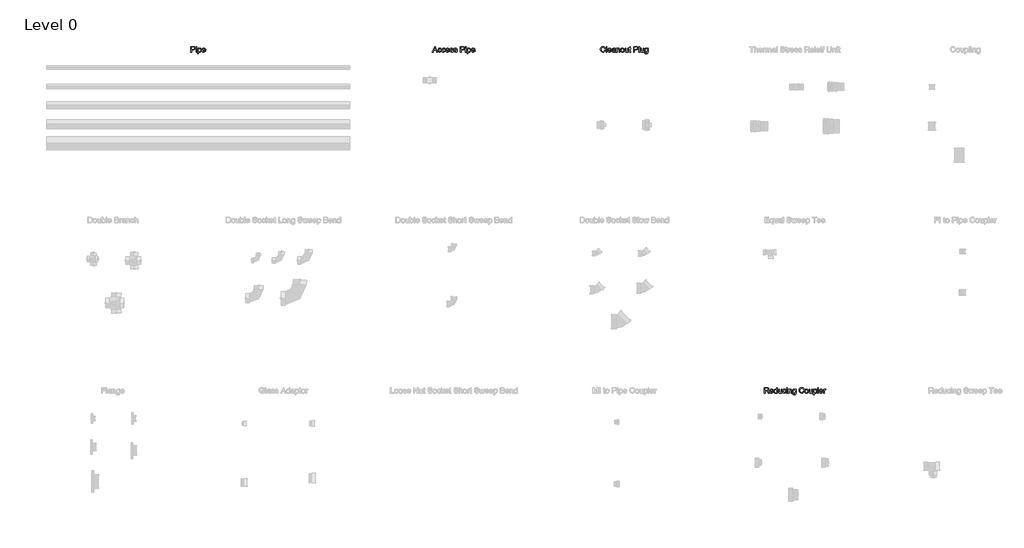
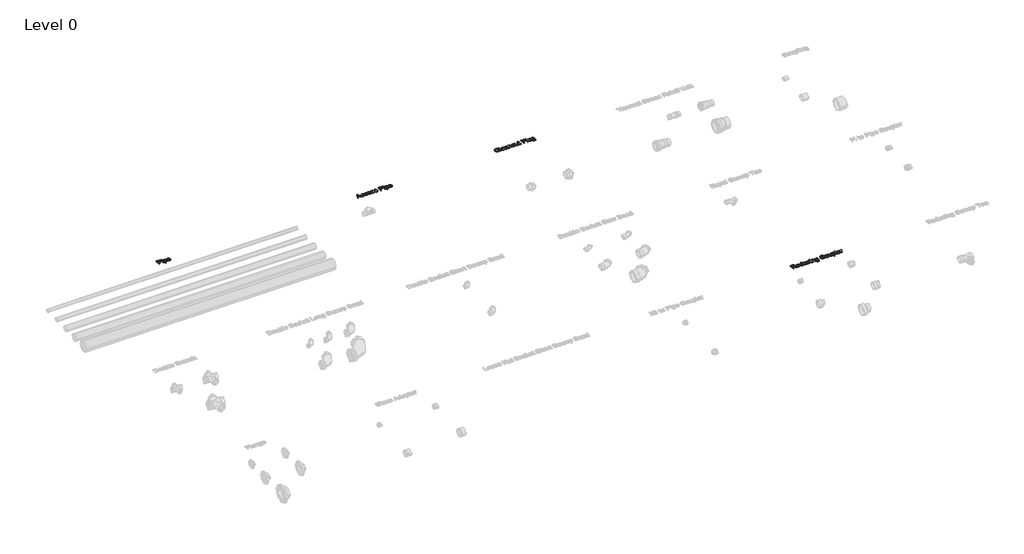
# One storey, part 8 of 10: 4 proxies.
"""IFC4 building model written with IfcOpenShell, lengths in millimetres."""

from ifc_helpers import new_model, si_unit, origin, origin_with_axes, place, context, project, spatial, polyline, outline, extrude, element, save

model = new_model("IFC4")

# Units and contexts
model_context = context("Model", 3, world=origin())
ifc_project = project(units=[si_unit("LENGTHUNIT", "METRE", prefix="MILLI")], contexts=[model_context])

# Site, building, storey
site = spatial("IfcSite", under=ifc_project)
building = spatial("IfcBuilding", under=site)
storey = spatial("IfcBuildingStorey", under=building, Name="Level 0", Elevation=0.0)

# Proxies
placement = place(None, origin())
element("IfcBuildingElementProxy", 1, Name="75mm Arial", ObjectType="75mm Arial", at=placement, inside=storey, context=model_context, shape_type="SweptSolid", body=[
    extrude(outline(polyline([(-6004.5232569, 5606.6243175), (-6004.5232569, 5680.4704713), (-5977.1554685, 5680.4704713), (-5966.1218146, 5679.7673463), (-5957.1524637, 5676.3148223), (-5951.3381608, 5669.1753992), (-5949.1386416, 5659.1062886), (-5950.6237678, 5650.4028631), (-5955.0791464, 5643.1507598), (-5963.4107269, 5638.255928), (-5976.5244589, 5636.6243175), (-5995.2924877, 5636.6243175), (-5995.2924877, 5606.6243175), (-6004.5232569, 5606.6243175)]), holes=[polyline([(-5995.2924877, 5645.8550867), (-5975.9835935, 5645.8550867), (-5962.3898435, 5649.2445098), (-5958.3694108, 5658.7817694), (-5960.7402041, 5666.4260002), (-5966.9691704, 5670.6086925), (-5976.1999396, 5671.2397021), (-5995.2924877, 5671.2397021), (-5995.2924877, 5645.8550867)])]), origin_with_axes(), (0.0, 0.0, 1.0), 10.0),
    extrude(outline(polyline([(-5937.60018, 5606.6243175), (-5937.60018, 5660.8550867), (-5928.3694108, 5660.8550867), (-5928.3694108, 5606.6243175), (-5937.60018, 5606.6243175)])), origin_with_axes(), (0.0, 0.0, 1.0), 10.0),
    extrude(outline(polyline([(-5937.60018, 5671.2397021), (-5937.60018, 5680.4704713), (-5928.3694108, 5680.4704713), (-5928.3694108, 5671.2397021), (-5937.60018, 5671.2397021)])), origin_with_axes(), (0.0, 0.0, 1.0), 10.0),
    extrude(outline(polyline([(-5914.5232569, 5585.8550867), (-5914.5232569, 5660.8550867), (-5905.2924877, 5660.8550867), (-5905.2924877, 5651.8046059), (-5898.9102762, 5659.4578511), (-5890.2924877, 5662.0089328), (-5878.5917666, 5658.4392213), (-5870.9475358, 5648.3791252), (-5868.3694108, 5634.1543655), (-5871.2810694, 5619.1994377), (-5879.7365983, 5609.0131396), (-5891.4102762, 5605.4704713), (-5899.4421271, 5607.8412646), (-5905.2924877, 5613.8358559), (-5905.2924877, 5585.8550867), (-5914.5232569, 5585.8550867)]), holes=[polyline([(-5905.2924877, 5633.3070098), (-5901.2990983, 5619.2445098), (-5891.6085935, 5614.7012405), (-5881.7197714, 5619.4067694), (-5877.60018, 5633.9921059), (-5881.6206127, 5648.0906636), (-5891.2299877, 5652.7781636), (-5901.0286656, 5647.7931877), (-5905.2924877, 5633.3070098)])]), origin_with_axes(), (0.0, 0.0, 1.0), 10.0),
    extrude(outline(polyline([(-5820.0160454, 5622.7781636), (-5810.9655646, 5621.6243175), (-5819.4301079, 5609.7072502), (-5835.1963339, 5605.4704713), (-5846.0271632, 5607.2981456), (-5854.3609973, 5612.7811684), (-5859.6749997, 5621.5634701), (-5861.4463339, 5633.2889809), (-5859.6569709, 5645.4088728), (-5854.2888819, 5654.4728752), (-5846.0677281, 5660.1249184), (-5835.7191704, 5662.0089328), (-5825.6928783, 5660.1294256), (-5817.6813098, 5654.490904), (-5812.4281548, 5645.4449304), (-5810.6771031, 5633.3430675), (-5810.7311896, 5630.8550867), (-5852.2155646, 5630.8550867), (-5846.9060694, 5618.865904), (-5835.0160454, 5614.7012405), (-5825.9655646, 5616.6303271), (-5820.0160454, 5622.7781636)]), holes=[polyline([(-5852.2155646, 5640.0858559), (-5819.9078723, 5640.0858559), (-5823.6037858, 5648.4512405), (-5835.7552281, 5652.7781636), (-5847.1224156, 5649.3256396), (-5852.2155646, 5640.0858559)])]), origin_with_axes(), (0.0, 0.0, 1.0), 10.0),
])
element("IfcBuildingElementProxy", 2, Name="75mm Arial", ObjectType="75mm Arial", at=placement, inside=storey, context=model_context, shape_type="SweptSolid", body=[
    extrude(outline(polyline([(-2818.6999396, 5606.6243175), (-2789.2227762, 5680.4704713), (-2781.3621992, 5680.4704713), (-2751.8850358, 5606.6243175), (-2761.6386416, 5606.6243175), (-2770.0941704, 5629.7012405), (-2800.5088339, 5629.7012405), (-2808.9463339, 5606.6243175), (-2818.6999396, 5606.6243175)]), holes=[polyline([(-2797.1194108, 5638.9320098), (-2773.4655646, 5638.9320098), (-2780.1182089, 5657.0870578), (-2785.2924877, 5671.2397021), (-2789.8898435, 5658.6735963), (-2797.1194108, 5638.9320098)])]), origin_with_axes(), (0.0, 0.0, 1.0), 10.0),
    extrude(outline(polyline([(-2708.5617185, 5626.2397021), (-2699.3309492, 5625.0858559), (-2706.740805, 5610.6717934), (-2721.3802281, 5605.4704713), (-2731.1991884, 5607.284624), (-2738.8772233, 5612.7270819), (-2743.8329024, 5621.5589629), (-2745.4847954, 5633.5413848), (-2742.663281, 5648.8749184), (-2734.0635214, 5658.7276828), (-2721.50643, 5662.0089328), (-2707.4709733, 5657.5017213), (-2700.4847954, 5644.7012405), (-2709.7155646, 5643.5473944), (-2713.9974156, 5650.4614569), (-2721.4343146, 5652.7781636), (-2732.1344348, 5648.2168655), (-2736.2540262, 5633.7937886), (-2732.2245791, 5619.2354953), (-2721.6867185, 5614.7012405), (-2712.9878002, 5617.5317694), (-2708.5617185, 5626.2397021)])), origin_with_axes(), (0.0, 0.0, 1.0), 10.0),
    extrude(outline(polyline([(-2656.6386416, 5626.2397021), (-2647.4078723, 5625.0858559), (-2654.8177281, 5610.6717934), (-2669.4571512, 5605.4704713), (-2679.2761115, 5607.284624), (-2686.9541464, 5612.7270819), (-2691.9098254, 5621.5589629), (-2693.5617185, 5633.5413848), (-2690.7402041, 5648.8749184), (-2682.1404444, 5658.7276828), (-2669.5833531, 5662.0089328), (-2655.5478964, 5657.5017213), (-2648.5617185, 5644.7012405), (-2657.7924877, 5643.5473944), (-2662.0743387, 5650.4614569), (-2669.5112377, 5652.7781636), (-2680.2113579, 5648.2168655), (-2684.3309492, 5633.7937886), (-2680.3015021, 5619.2354953), (-2669.7636416, 5614.7012405), (-2661.0647233, 5617.5317694), (-2656.6386416, 5626.2397021)])), origin_with_axes(), (0.0, 0.0, 1.0), 10.0),
    extrude(outline(polyline([(-2601.3621992, 5622.7781636), (-2592.3117185, 5621.6243175), (-2600.7762617, 5609.7072502), (-2616.5424877, 5605.4704713), (-2627.373317, 5607.2981456), (-2635.7071512, 5612.7811684), (-2641.0211536, 5621.5634701), (-2642.7924877, 5633.2889809), (-2641.0031247, 5645.4088728), (-2635.6350358, 5654.4728752), (-2627.4138819, 5660.1249184), (-2617.0653242, 5662.0089328), (-2607.0390322, 5660.1294256), (-2599.0274637, 5654.490904), (-2593.7743086, 5645.4449304), (-2592.0232569, 5633.3430675), (-2592.0773435, 5630.8550867), (-2633.5617185, 5630.8550867), (-2628.2522233, 5618.865904), (-2616.3621992, 5614.7012405), (-2607.3117185, 5616.6303271), (-2601.3621992, 5622.7781636)]), holes=[polyline([(-2633.5617185, 5640.0858559), (-2601.2540262, 5640.0858559), (-2604.9499396, 5648.4512405), (-2617.1013819, 5652.7781636), (-2628.4685694, 5649.3256396), (-2633.5617185, 5640.0858559)])]), origin_with_axes(), (0.0, 0.0, 1.0), 10.0),
    extrude(outline(polyline([(-2586.2540262, 5622.7781636), (-2577.0232569, 5623.9320098), (-2572.7504204, 5617.0810482), (-2562.9607569, 5614.7012405), (-2553.5496992, 5616.8827309), (-2550.4847954, 5622.0029232), (-2553.5677281, 5626.1495578), (-2563.06893, 5628.7817694), (-2576.9691704, 5633.2979953), (-2583.0358771, 5638.5714328), (-2585.10018, 5646.0173463), (-2583.4415262, 5652.8953511), (-2578.9162858, 5658.1507598), (-2573.0478964, 5660.88213), (-2565.1061896, 5662.0089328), (-2553.8742185, 5660.1970338), (-2546.7347954, 5655.2931877), (-2543.5617185, 5647.0089328), (-2552.7924877, 5645.8550867), (-2556.2630406, 5650.9482357), (-2564.3850358, 5652.7781636), (-2573.2191704, 5651.0293655), (-2575.8694108, 5646.9548463), (-2574.7696512, 5644.2685482), (-2571.3261416, 5642.2312886), (-2563.3754204, 5640.2661444), (-2549.8267425, 5635.9211925), (-2543.5346752, 5630.9993175), (-2541.2540262, 5622.9764809), (-2543.9313098, 5614.1423463), (-2551.6566704, 5607.7330915), (-2563.0869589, 5605.4704713), (-2579.1867185, 5609.8334521), (-2586.2540262, 5622.7781636)])), origin_with_axes(), (0.0, 0.0, 1.0), 10.0),
    extrude(outline(polyline([(-2534.3309492, 5622.7781636), (-2525.10018, 5623.9320098), (-2520.8273435, 5617.0810482), (-2511.03768, 5614.7012405), (-2501.6266223, 5616.8827309), (-2498.5617185, 5622.0029232), (-2501.6446512, 5626.1495578), (-2511.1458531, 5628.7817694), (-2525.0460935, 5633.2979953), (-2531.1128002, 5638.5714328), (-2533.1771031, 5646.0173463), (-2531.5184492, 5652.8953511), (-2526.9932089, 5658.1507598), (-2521.1248194, 5660.88213), (-2513.1831127, 5662.0089328), (-2501.9511416, 5660.1970338), (-2494.8117185, 5655.2931877), (-2491.6386416, 5647.0089328), (-2500.8694108, 5645.8550867), (-2504.3399637, 5650.9482357), (-2512.4619589, 5652.7781636), (-2521.2960935, 5651.0293655), (-2523.9463339, 5646.9548463), (-2522.8465742, 5644.2685482), (-2519.4030646, 5642.2312886), (-2511.4523435, 5640.2661444), (-2497.9036656, 5635.9211925), (-2491.6115983, 5630.9993175), (-2489.3309492, 5622.9764809), (-2492.0082329, 5614.1423463), (-2499.7335935, 5607.7330915), (-2511.1638819, 5605.4704713), (-2527.2636416, 5609.8334521), (-2534.3309492, 5622.7781636)])), origin_with_axes(), (0.0, 0.0, 1.0), 10.0),
    extrude(outline(polyline([(-2448.9463339, 5606.6243175), (-2448.9463339, 5680.4704713), (-2421.5785454, 5680.4704713), (-2410.5448916, 5679.7673463), (-2401.5755406, 5676.3148223), (-2395.7612377, 5669.1753992), (-2393.5617185, 5659.1062886), (-2395.0468447, 5650.4028631), (-2399.5022233, 5643.1507598), (-2407.8338038, 5638.255928), (-2420.9475358, 5636.6243175), (-2439.7155646, 5636.6243175), (-2439.7155646, 5606.6243175), (-2448.9463339, 5606.6243175)]), holes=[polyline([(-2439.7155646, 5645.8550867), (-2420.4066704, 5645.8550867), (-2406.8129204, 5649.2445098), (-2402.7924877, 5658.7817694), (-2405.163281, 5666.4260002), (-2411.3922473, 5670.6086925), (-2420.6230166, 5671.2397021), (-2439.7155646, 5671.2397021), (-2439.7155646, 5645.8550867)])]), origin_with_axes(), (0.0, 0.0, 1.0), 10.0),
    extrude(outline(polyline([(-2382.0232569, 5606.6243175), (-2382.0232569, 5660.8550867), (-2372.7924877, 5660.8550867), (-2372.7924877, 5606.6243175), (-2382.0232569, 5606.6243175)])), origin_with_axes(), (0.0, 0.0, 1.0), 10.0),
    extrude(outline(polyline([(-2382.0232569, 5671.2397021), (-2382.0232569, 5680.4704713), (-2372.7924877, 5680.4704713), (-2372.7924877, 5671.2397021), (-2382.0232569, 5671.2397021)])), origin_with_axes(), (0.0, 0.0, 1.0), 10.0),
    extrude(outline(polyline([(-2358.9463339, 5585.8550867), (-2358.9463339, 5660.8550867), (-2349.7155646, 5660.8550867), (-2349.7155646, 5651.8046059), (-2343.3333531, 5659.4578511), (-2334.7155646, 5662.0089328), (-2323.0148435, 5658.4392213), (-2315.3706127, 5648.3791252), (-2312.7924877, 5634.1543655), (-2315.7041464, 5619.1994377), (-2324.1596752, 5609.0131396), (-2335.8333531, 5605.4704713), (-2343.8652041, 5607.8412646), (-2349.7155646, 5613.8358559), (-2349.7155646, 5585.8550867), (-2358.9463339, 5585.8550867)]), holes=[polyline([(-2349.7155646, 5633.3070098), (-2345.7221752, 5619.2445098), (-2336.0316704, 5614.7012405), (-2326.1428483, 5619.4067694), (-2322.0232569, 5633.9921059), (-2326.0436896, 5648.0906636), (-2335.6530646, 5652.7781636), (-2345.4517425, 5647.7931877), (-2349.7155646, 5633.3070098)])]), origin_with_axes(), (0.0, 0.0, 1.0), 10.0),
    extrude(outline(polyline([(-2264.4391223, 5622.7781636), (-2255.3886416, 5621.6243175), (-2263.8531848, 5609.7072502), (-2279.6194108, 5605.4704713), (-2290.4502401, 5607.2981456), (-2298.7840742, 5612.7811684), (-2304.0980767, 5621.5634701), (-2305.8694108, 5633.2889809), (-2304.0800478, 5645.4088728), (-2298.7119589, 5654.4728752), (-2290.490805, 5660.1249184), (-2280.1422473, 5662.0089328), (-2270.1159553, 5660.1294256), (-2262.1043867, 5654.490904), (-2256.8512317, 5645.4449304), (-2255.10018, 5633.3430675), (-2255.1542666, 5630.8550867), (-2296.6386416, 5630.8550867), (-2291.3291464, 5618.865904), (-2279.4391223, 5614.7012405), (-2270.3886416, 5616.6303271), (-2264.4391223, 5622.7781636)]), holes=[polyline([(-2296.6386416, 5640.0858559), (-2264.3309492, 5640.0858559), (-2268.0268627, 5648.4512405), (-2280.178305, 5652.7781636), (-2291.5454925, 5649.3256396), (-2296.6386416, 5640.0858559)])]), origin_with_axes(), (0.0, 0.0, 1.0), 10.0),
])
element("IfcBuildingElementProxy", 3, Name="75mm Arial", ObjectType="75mm Arial", at=placement, inside=storey, context=model_context, shape_type="SweptSolid", body=[
    extrude(outline(polyline([(-546.2540262, 5632.8743175), (-537.0232569, 5630.4945098), (-541.2825718, 5619.7380494), (-547.9667666, 5611.8797261), (-556.7468146, 5607.072785), (-567.2936896, 5605.4704713), (-586.5034252, 5610.3202309), (-597.7714541, 5624.3647021), (-601.6386416, 5644.1062886), (-597.2666464, 5664.1723944), (-584.8357569, 5677.1802069), (-567.0953723, 5681.6243175), (-556.9744288, 5680.186517), (-548.6067906, 5675.8731155), (-542.2538759, 5668.9500386), (-538.1771031, 5659.6832117), (-547.4078723, 5657.4836925), (-554.9799877, 5668.8328511), (-567.4559492, 5672.3935482), (-581.897055, 5668.4452309), (-590.0551079, 5657.8442694), (-592.4078723, 5644.1243175), (-589.6224156, 5628.2228752), (-580.9505406, 5618.0636203), (-568.2131608, 5614.7012405), (-554.0875598, 5619.2805675), (-546.2540262, 5632.8743175)])), origin_with_axes(), (0.0, 0.0, 1.0), 10.0),
    extrude(outline(polyline([(-525.4847954, 5606.6243175), (-525.4847954, 5680.4704713), (-516.2540262, 5680.4704713), (-516.2540262, 5606.6243175), (-525.4847954, 5606.6243175)])), origin_with_axes(), (0.0, 0.0, 1.0), 10.0),
    extrude(outline(polyline([(-464.4391223, 5622.7781636), (-455.3886416, 5621.6243175), (-463.8531848, 5609.7072502), (-479.6194108, 5605.4704713), (-490.4502401, 5607.2981456), (-498.7840742, 5612.7811684), (-504.0980767, 5621.5634701), (-505.8694108, 5633.2889809), (-504.0800478, 5645.4088728), (-498.7119589, 5654.4728752), (-490.490805, 5660.1249184), (-480.1422473, 5662.0089328), (-470.1159553, 5660.1294256), (-462.1043867, 5654.490904), (-456.8512317, 5645.4449304), (-455.10018, 5633.3430675), (-455.1542666, 5630.8550867), (-496.6386416, 5630.8550867), (-491.3291464, 5618.865904), (-479.4391223, 5614.7012405), (-470.3886416, 5616.6303271), (-464.4391223, 5622.7781636)]), holes=[polyline([(-496.6386416, 5640.0858559), (-464.3309492, 5640.0858559), (-468.0268627, 5648.4512405), (-480.178305, 5652.7781636), (-491.5454925, 5649.3256396), (-496.6386416, 5640.0858559)])]), origin_with_axes(), (0.0, 0.0, 1.0), 10.0),
    extrude(outline(polyline([(-411.2540262, 5613.5473944), (-420.2053483, 5607.2913848), (-430.0941704, 5605.4704713), (-443.4986175, 5609.8514809), (-448.1771031, 5621.0473944), (-446.4102762, 5628.3490771), (-441.7678483, 5633.6495578), (-435.3045069, 5636.678404), (-427.3177281, 5638.0666252), (-411.3081127, 5641.2397021), (-411.2540262, 5643.2949905), (-413.7960935, 5650.1098944), (-424.0004204, 5652.7781636), (-433.3393627, 5651.0023223), (-437.7924877, 5644.7012405), (-447.0232569, 5645.8550867), (-443.0298675, 5654.8695098), (-434.9890021, 5660.1519617), (-422.8105166, 5662.0089328), (-411.6236175, 5660.3683078), (-405.3045069, 5656.2487165), (-402.4739781, 5649.9836925), (-402.0232569, 5641.9067694), (-402.0232569, 5630.4223944), (-401.5545069, 5614.3857357), (-399.7155646, 5606.6243175), (-408.9463339, 5606.6243175), (-411.2540262, 5613.5473944)]), holes=[polyline([(-411.2540262, 5632.0089328), (-426.1458531, 5629.178404), (-434.0875598, 5627.6820098), (-437.6843146, 5625.2481155), (-438.9463339, 5621.6964328), (-436.1969348, 5616.7024425), (-428.1290262, 5614.7012405), (-418.7900839, 5616.9097742), (-412.7684492, 5622.2553271), (-411.3081127, 5629.3947502), (-411.2540262, 5632.0089328)])]), origin_with_axes(), (0.0, 0.0, 1.0), 10.0),
    extrude(outline(polyline([(-389.3309492, 5606.6243175), (-389.3309492, 5660.8550867), (-380.10018, 5660.8550867), (-380.10018, 5653.2829713), (-373.0418867, 5659.8274425), (-363.4054685, 5662.0089328), (-354.6885214, 5660.2511203), (-348.7390021, 5655.6357357), (-345.9715742, 5648.8478752), (-345.4847954, 5639.9235963), (-345.4847954, 5606.6243175), (-354.7155646, 5606.6243175), (-354.7155646, 5638.6796059), (-355.7792666, 5646.8466732), (-359.538281, 5651.1645819), (-365.8754204, 5652.7781636), (-375.8904444, 5649.1543655), (-380.10018, 5635.3983559), (-380.10018, 5606.6243175), (-389.3309492, 5606.6243175)])), origin_with_axes(), (0.0, 0.0, 1.0), 10.0),
    extrude(outline(polyline([(-335.10018, 5633.7397021), (-333.1034853, 5646.8151228), (-327.1134012, 5656.0053271), (-319.7125598, 5660.5080314), (-310.8513819, 5662.0089328), (-301.1541163, 5660.1812586), (-293.4084733, 5654.6982357), (-288.3310995, 5645.9925566), (-286.6386416, 5634.4969136), (-289.63143, 5618.0726348), (-298.3483771, 5608.7787646), (-310.8513819, 5605.4704713), (-320.6658351, 5607.2913848), (-328.4024637, 5612.7541252), (-333.4257509, 5621.6423463), (-335.10018, 5633.7397021)]), holes=[polyline([(-325.8694108, 5633.7577309), (-321.5965742, 5619.4518415), (-310.8513819, 5614.7012405), (-300.1422473, 5619.4788848), (-295.8694108, 5634.0461925), (-300.1692906, 5648.0275627), (-310.8513819, 5652.7781636), (-321.5965742, 5648.0455915), (-325.8694108, 5633.7577309)])]), origin_with_axes(), (0.0, 0.0, 1.0), 10.0),
    extrude(outline(polyline([(-241.6386416, 5606.6243175), (-241.6386416, 5615.9452309), (-248.8682089, 5608.0891612), (-258.2972954, 5605.4704713), (-266.9781848, 5607.3094136), (-272.9637617, 5611.9247982), (-275.7131608, 5618.7216732), (-276.2540262, 5627.303404), (-276.2540262, 5660.8550867), (-267.0232569, 5660.8550867), (-267.0232569, 5631.6483559), (-266.4643627, 5622.2372982), (-262.8135214, 5616.7114569), (-255.9355166, 5614.7012405), (-248.2281848, 5616.756529), (-243.1350358, 5622.3544857), (-241.6386416, 5632.6399425), (-241.6386416, 5660.8550867), (-232.4078723, 5660.8550867), (-232.4078723, 5606.6243175), (-241.6386416, 5606.6243175)])), origin_with_axes(), (0.0, 0.0, 1.0), 10.0),
    extrude(outline(polyline([(-200.10018, 5614.3226348), (-198.9463339, 5606.3538848), (-205.8513819, 5605.4704713), (-213.5857569, 5607.0029232), (-217.44393, 5611.0233559), (-218.5617185, 5621.4981155), (-218.5617185, 5651.6243175), (-225.4847954, 5651.6243175), (-225.4847954, 5660.8550867), (-218.5617185, 5660.8550867), (-218.5617185, 5674.0341732), (-209.3309492, 5679.4608559), (-209.3309492, 5660.8550867), (-200.10018, 5660.8550867), (-200.10018, 5651.6243175), (-209.3309492, 5651.6243175), (-209.3309492, 5621.7685482), (-208.8441704, 5617.0089328), (-207.2666464, 5615.3232357), (-204.1206127, 5614.7012405), (-200.10018, 5614.3226348)])), origin_with_axes(), (0.0, 0.0, 1.0), 10.0),
    extrude(outline(polyline([(-160.8694108, 5606.6243175), (-160.8694108, 5680.4704713), (-133.5016223, 5680.4704713), (-122.4679685, 5679.7673463), (-113.4986175, 5676.3148223), (-107.6843146, 5669.1753992), (-105.4847954, 5659.1062886), (-106.9699216, 5650.4028631), (-111.4253002, 5643.1507598), (-119.7568807, 5638.255928), (-132.8706127, 5636.6243175), (-151.6386416, 5636.6243175), (-151.6386416, 5606.6243175), (-160.8694108, 5606.6243175)]), holes=[polyline([(-151.6386416, 5645.8550867), (-132.3297473, 5645.8550867), (-118.7359973, 5649.2445098), (-114.7155646, 5658.7817694), (-117.0863579, 5666.4260002), (-123.3153242, 5670.6086925), (-132.5460935, 5671.2397021), (-151.6386416, 5671.2397021), (-151.6386416, 5645.8550867)])]), origin_with_axes(), (0.0, 0.0, 1.0), 10.0),
    extrude(outline(polyline([(-93.9463339, 5606.6243175), (-93.9463339, 5680.4704713), (-84.7155646, 5680.4704713), (-84.7155646, 5606.6243175), (-93.9463339, 5606.6243175)])), origin_with_axes(), (0.0, 0.0, 1.0), 10.0),
    extrude(outline(polyline([(-36.2540262, 5606.6243175), (-36.2540262, 5615.9452309), (-43.4835935, 5608.0891612), (-52.91268, 5605.4704713), (-61.5935694, 5607.3094136), (-67.5791464, 5611.9247982), (-70.3285454, 5618.7216732), (-70.8694108, 5627.303404), (-70.8694108, 5660.8550867), (-61.6386416, 5660.8550867), (-61.6386416, 5631.6483559), (-61.0797473, 5622.2372982), (-57.428906, 5616.7114569), (-50.5509012, 5614.7012405), (-42.8435694, 5616.756529), (-37.7504204, 5622.3544857), (-36.2540262, 5632.6399425), (-36.2540262, 5660.8550867), (-27.0232569, 5660.8550867), (-27.0232569, 5606.6243175), (-36.2540262, 5606.6243175)])), origin_with_axes(), (0.0, 0.0, 1.0), 10.0),
    extrude(outline(polyline([(-16.6386416, 5602.0089328), (-7.4078723, 5600.8550867), (-4.4150839, 5595.9872982), (4.5452527, 5593.9320098), (13.9923681, 5596.2577309), (18.4995796, 5602.7841732), (19.1305892, 5613.5473944), (12.6311902, 5608.3550867), (4.7075123, 5606.6243175), (-4.8094649, 5608.639041), (-11.9060694, 5614.6832117), (-16.3208831, 5623.5443896), (-17.7924877, 5634.0101348), (-15.1512617, 5648.3160242), (-7.507031, 5658.4392213), (4.2567911, 5662.0089328), (12.4914666, 5659.9897021), (19.1305892, 5653.9320098), (19.1305892, 5660.8550867), (28.3613584, 5660.8550867), (28.3613584, 5614.0341732), (25.83732, 5596.1044857), (17.8415267, 5587.7661444), (4.3649642, 5584.7012405), (-10.9865983, 5589.0191492), (-15.3247894, 5594.4255494), (-16.6386416, 5602.0089328)]), holes=[polyline([(-8.5617185, 5634.6411444), (-4.6224156, 5620.3532838), (5.2664065, 5615.8550867), (15.1371998, 5620.3262405), (19.1305892, 5634.3707117), (15.0200123, 5648.1357357), (5.1221758, 5652.7781636), (-4.5683291, 5648.2078511), (-8.5617185, 5634.6411444)])]), origin_with_axes(), (0.0, 0.0, 1.0), 10.0),
])
element("IfcBuildingElementProxy", 4, Name="75mm Arial", ObjectType="75mm Arial", at=placement, inside=storey, context=model_context, shape_type="SweptSolid", body=[
    extrude(outline(polyline([(1563.5536661, 1106.6243175), (1563.5536661, 1180.4704713), (1595.3745796, 1180.4704713), (1610.149219, 1178.4782838), (1618.2261421, 1171.429005), (1621.2459738, 1160.2601348), (1616.242969, 1146.9548463), (1600.7832334, 1140.0858559), (1606.0296277, 1136.1375386), (1613.5115988, 1126.6363367), (1625.8253008, 1106.6243175), (1615.0981373, 1106.6243175), (1605.4887623, 1121.9308078), (1598.5476565, 1132.0630194), (1593.6708536, 1136.849678), (1589.2808296, 1138.6074905), (1583.9262623, 1138.9320098), (1572.7844354, 1138.9320098), (1572.7844354, 1106.6243175), (1563.5536661, 1106.6243175)]), holes=[polyline([(1572.7844354, 1148.162779), (1593.4454931, 1148.162779), (1603.9833536, 1149.4698703), (1609.9689306, 1153.6525627), (1612.0152046, 1159.9175867), (1608.1119594, 1168.0485963), (1595.7712142, 1171.2397021), (1572.7844354, 1171.2397021), (1572.7844354, 1148.162779)])]), origin_with_axes(), (0.0, 0.0, 1.0), 10.0),
    extrude(outline(polyline([(1674.2147238, 1122.7781636), (1683.2652046, 1121.6243175), (1674.8006613, 1109.7072502), (1659.0344354, 1105.4704713), (1648.203606, 1107.2981456), (1639.8697719, 1112.7811684), (1634.5557695, 1121.5634701), (1632.7844354, 1133.2889809), (1634.5737983, 1145.4088728), (1639.9418873, 1154.4728752), (1648.1630411, 1160.1249184), (1658.5115988, 1162.0089328), (1668.5378909, 1160.1294256), (1676.5494594, 1154.490904), (1681.8026145, 1145.4449304), (1683.5536661, 1133.3430675), (1683.4995796, 1130.8550867), (1642.0152046, 1130.8550867), (1647.3246998, 1118.865904), (1659.2147238, 1114.7012405), (1668.2652046, 1116.6303271), (1674.2147238, 1122.7781636)]), holes=[polyline([(1642.0152046, 1140.0858559), (1674.3228969, 1140.0858559), (1670.6269834, 1148.4512405), (1658.4755411, 1152.7781636), (1647.1083536, 1149.3256396), (1642.0152046, 1140.0858559)])]), origin_with_axes(), (0.0, 0.0, 1.0), 10.0),
    extrude(outline(polyline([(1726.2459738, 1106.6243175), (1726.2459738, 1115.3322502), (1720.1387022, 1107.935916), (1711.696695, 1105.4704713), (1700.2664065, 1109.0401828), (1692.1894834, 1119.0011203), (1689.3228969, 1133.6856155), (1691.9641229, 1148.3791252), (1699.8787863, 1158.4933078), (1711.6606373, 1162.0089328), (1720.1702527, 1159.4939088), (1726.2459738, 1152.9584521), (1726.2459738, 1180.4704713), (1735.4767431, 1180.4704713), (1735.4767431, 1106.6243175), (1726.2459738, 1106.6243175)]), holes=[polyline([(1698.5536661, 1133.7216732), (1702.7183296, 1119.4338127), (1712.5440508, 1114.7012405), (1722.2525844, 1119.2174665), (1726.2459738, 1133.0185482), (1722.180469, 1148.0005194), (1712.165445, 1152.7781636), (1702.4478969, 1148.1898223), (1698.5536661, 1133.7216732)])]), origin_with_axes(), (0.0, 0.0, 1.0), 10.0),
    extrude(outline(polyline([(1783.9382815, 1106.6243175), (1783.9382815, 1115.9452309), (1776.7087142, 1108.0891612), (1767.2796277, 1105.4704713), (1758.5987383, 1107.3094136), (1752.6131613, 1111.9247982), (1749.8637623, 1118.7216732), (1749.3228969, 1127.303404), (1749.3228969, 1160.8550867), (1758.5536661, 1160.8550867), (1758.5536661, 1131.6483559), (1759.1125604, 1122.2372982), (1762.7634017, 1116.7114569), (1769.6414065, 1114.7012405), (1777.3487383, 1116.756529), (1782.4418873, 1122.3544857), (1783.9382815, 1132.6399425), (1783.9382815, 1160.8550867), (1793.1690508, 1160.8550867), (1793.1690508, 1106.6243175), (1783.9382815, 1106.6243175)])), origin_with_axes(), (0.0, 0.0, 1.0), 10.0),
    extrude(outline(polyline([(1840.4767431, 1126.2397021), (1849.7075123, 1125.0858559), (1842.2976565, 1110.6717934), (1827.6582334, 1105.4704713), (1817.8392731, 1107.284624), (1810.1612383, 1112.7270819), (1805.2055592, 1121.5589629), (1803.5536661, 1133.5413848), (1806.3751806, 1148.8749184), (1814.9749402, 1158.7276828), (1827.5320315, 1162.0089328), (1841.5674883, 1157.5017213), (1848.5536661, 1144.7012405), (1839.3228969, 1143.5473944), (1835.0410459, 1150.4614569), (1827.6041469, 1152.7781636), (1816.9040267, 1148.2168655), (1812.7844354, 1133.7937886), (1816.8138825, 1119.2354953), (1827.3517431, 1114.7012405), (1836.0506613, 1117.5317694), (1840.4767431, 1126.2397021)])), origin_with_axes(), (0.0, 0.0, 1.0), 10.0),
    extrude(outline(polyline([(1857.7844354, 1106.6243175), (1857.7844354, 1160.8550867), (1867.0152046, 1160.8550867), (1867.0152046, 1106.6243175), (1857.7844354, 1106.6243175)])), origin_with_axes(), (0.0, 0.0, 1.0), 10.0),
    extrude(outline(polyline([(1857.7844354, 1171.2397021), (1857.7844354, 1180.4704713), (1867.0152046, 1180.4704713), (1867.0152046, 1171.2397021), (1857.7844354, 1171.2397021)])), origin_with_axes(), (0.0, 0.0, 1.0), 10.0),
    extrude(outline(polyline([(1880.8613584, 1106.6243175), (1880.8613584, 1160.8550867), (1890.0921277, 1160.8550867), (1890.0921277, 1153.2829713), (1897.1504209, 1159.8274425), (1906.7868392, 1162.0089328), (1915.5037863, 1160.2511203), (1921.4533056, 1155.6357357), (1924.2207334, 1148.8478752), (1924.7075123, 1139.9235963), (1924.7075123, 1106.6243175), (1915.4767431, 1106.6243175), (1915.4767431, 1138.6796059), (1914.4130411, 1146.8466732), (1910.6540267, 1151.1645819), (1904.3168873, 1152.7781636), (1894.3018633, 1149.1543655), (1890.0921277, 1135.3983559), (1890.0921277, 1106.6243175), (1880.8613584, 1106.6243175)])), origin_with_axes(), (0.0, 0.0, 1.0), 10.0),
    extrude(outline(polyline([(1935.0921277, 1102.0089328), (1944.3228969, 1100.8550867), (1947.3156854, 1095.9872982), (1956.2760219, 1093.9320098), (1965.7231373, 1096.2577309), (1970.2303488, 1102.7841732), (1970.8613584, 1113.5473944), (1964.3619594, 1108.3550867), (1956.4382815, 1106.6243175), (1946.9213044, 1108.639041), (1939.8246998, 1114.6832117), (1935.4098861, 1123.5443896), (1933.9382815, 1134.0101348), (1936.5795075, 1148.3160242), (1944.2237383, 1158.4392213), (1955.9875604, 1162.0089328), (1964.2222358, 1159.9897021), (1970.8613584, 1153.9320098), (1970.8613584, 1160.8550867), (1980.0921277, 1160.8550867), (1980.0921277, 1114.0341732), (1977.5680892, 1096.1044857), (1969.5722959, 1087.7661444), (1956.0957334, 1084.7012405), (1940.7441709, 1089.0191492), (1936.4059798, 1094.4255494), (1935.0921277, 1102.0089328)]), holes=[polyline([(1943.1690508, 1134.6411444), (1947.1083536, 1120.3532838), (1956.9971758, 1115.8550867), (1966.867969, 1120.3262405), (1970.8613584, 1134.3707117), (1966.7507815, 1148.1357357), (1956.852945, 1152.7781636), (1947.1624402, 1148.2078511), (1943.1690508, 1134.6411444)])]), origin_with_axes(), (0.0, 0.0, 1.0), 10.0),
    extrude(outline(polyline([(2075.8613584, 1132.8743175), (2085.0921277, 1130.4945098), (2080.8328128, 1119.7380494), (2074.1486181, 1111.8797261), (2065.36857, 1107.072785), (2054.821695, 1105.4704713), (2035.6119594, 1110.3202309), (2024.3439306, 1124.3647021), (2020.4767431, 1144.1062886), (2024.8487383, 1164.1723944), (2037.2796277, 1177.1802069), (2055.0200123, 1181.6243175), (2065.1409558, 1180.186517), (2073.508594, 1175.8731155), (2079.8615087, 1168.9500386), (2083.9382815, 1159.6832117), (2074.7075123, 1157.4836925), (2067.1353969, 1168.8328511), (2054.6594354, 1172.3935482), (2040.2183296, 1168.4452309), (2032.0602767, 1157.8442694), (2029.7075123, 1144.1243175), (2032.492969, 1128.2228752), (2041.164844, 1118.0636203), (2053.9022238, 1114.7012405), (2068.0278248, 1119.2805675), (2075.8613584, 1132.8743175)])), origin_with_axes(), (0.0, 0.0, 1.0), 10.0),
    extrude(outline(polyline([(2094.3228969, 1133.7397021), (2096.3195916, 1146.8151228), (2102.3096758, 1156.0053271), (2109.7105171, 1160.5080314), (2118.571695, 1162.0089328), (2128.2689606, 1160.1812586), (2136.0146036, 1154.6982357), (2141.0919774, 1145.9925566), (2142.7844354, 1134.4969136), (2139.7916469, 1118.0726348), (2131.0746998, 1108.7787646), (2118.571695, 1105.4704713), (2108.7572419, 1107.2913848), (2101.0206133, 1112.7541252), (2095.997326, 1121.6423463), (2094.3228969, 1133.7397021)]), holes=[polyline([(2103.5536661, 1133.7577309), (2107.8265027, 1119.4518415), (2118.571695, 1114.7012405), (2129.2808296, 1119.4788848), (2133.5536661, 1134.0461925), (2129.2537863, 1148.0275627), (2118.571695, 1152.7781636), (2107.8265027, 1148.0455915), (2103.5536661, 1133.7577309)])]), origin_with_axes(), (0.0, 0.0, 1.0), 10.0),
    extrude(outline(polyline([(2187.7844354, 1106.6243175), (2187.7844354, 1115.9452309), (2180.5548681, 1108.0891612), (2171.1257815, 1105.4704713), (2162.4448921, 1107.3094136), (2156.4593152, 1111.9247982), (2153.7099161, 1118.7216732), (2153.1690508, 1127.303404), (2153.1690508, 1160.8550867), (2162.39982, 1160.8550867), (2162.39982, 1131.6483559), (2162.9587142, 1122.2372982), (2166.6095556, 1116.7114569), (2173.4875604, 1114.7012405), (2181.1948921, 1116.756529), (2186.2880411, 1122.3544857), (2187.7844354, 1132.6399425), (2187.7844354, 1160.8550867), (2197.0152046, 1160.8550867), (2197.0152046, 1106.6243175), (2187.7844354, 1106.6243175)])), origin_with_axes(), (0.0, 0.0, 1.0), 10.0),
    extrude(outline(polyline([(2209.7075123, 1085.8550867), (2209.7075123, 1160.8550867), (2218.9382815, 1160.8550867), (2218.9382815, 1151.8046059), (2225.3204931, 1159.4578511), (2233.9382815, 1162.0089328), (2245.6390027, 1158.4392213), (2253.2832334, 1148.3791252), (2255.8613584, 1134.1543655), (2252.9496998, 1119.1994377), (2244.4941709, 1109.0131396), (2232.8204931, 1105.4704713), (2224.7886421, 1107.8412646), (2218.9382815, 1113.8358559), (2218.9382815, 1085.8550867), (2209.7075123, 1085.8550867)]), holes=[polyline([(2218.9382815, 1133.3070098), (2222.9316709, 1119.2445098), (2232.6221758, 1114.7012405), (2242.5109979, 1119.4067694), (2246.6305892, 1133.9921059), (2242.6101565, 1148.0906636), (2233.0007815, 1152.7781636), (2223.2021036, 1147.7931877), (2218.9382815, 1133.3070098)])]), origin_with_axes(), (0.0, 0.0, 1.0), 10.0),
    extrude(outline(polyline([(2266.2459738, 1106.6243175), (2266.2459738, 1180.4704713), (2275.4767431, 1180.4704713), (2275.4767431, 1106.6243175), (2266.2459738, 1106.6243175)])), origin_with_axes(), (0.0, 0.0, 1.0), 10.0),
    extrude(outline(polyline([(2327.2916469, 1122.7781636), (2336.3421277, 1121.6243175), (2327.8775844, 1109.7072502), (2312.1113584, 1105.4704713), (2301.2805291, 1107.2981456), (2292.946695, 1112.7811684), (2287.6326926, 1121.5634701), (2285.8613584, 1133.2889809), (2287.6507214, 1145.4088728), (2293.0188104, 1154.4728752), (2301.2399642, 1160.1249184), (2311.5885219, 1162.0089328), (2321.614814, 1160.1294256), (2329.6263825, 1154.490904), (2334.8795375, 1145.4449304), (2336.6305892, 1133.3430675), (2336.5765027, 1130.8550867), (2295.0921277, 1130.8550867), (2300.4016229, 1118.865904), (2312.2916469, 1114.7012405), (2321.3421277, 1116.6303271), (2327.2916469, 1122.7781636)]), holes=[polyline([(2295.0921277, 1140.0858559), (2327.39982, 1140.0858559), (2323.7039065, 1148.4512405), (2311.5524642, 1152.7781636), (2300.1852767, 1149.3256396), (2295.0921277, 1140.0858559)])]), origin_with_axes(), (0.0, 0.0, 1.0), 10.0),
    extrude(outline(polyline([(2345.8613584, 1106.6243175), (2345.8613584, 1160.8550867), (2353.9382815, 1160.8550867), (2353.9382815, 1152.8322502), (2359.6714546, 1160.2240771), (2365.4406854, 1162.0089328), (2374.7075123, 1159.1603752), (2371.6245796, 1150.8851348), (2365.134195, 1152.7781636), (2359.914844, 1150.9572502), (2356.5885219, 1145.9091732), (2355.0921277, 1135.1279232), (2355.0921277, 1106.6243175), (2345.8613584, 1106.6243175)])), origin_with_axes(), (0.0, 0.0, 1.0), 10.0),
])

save(model, "model.ifc")
